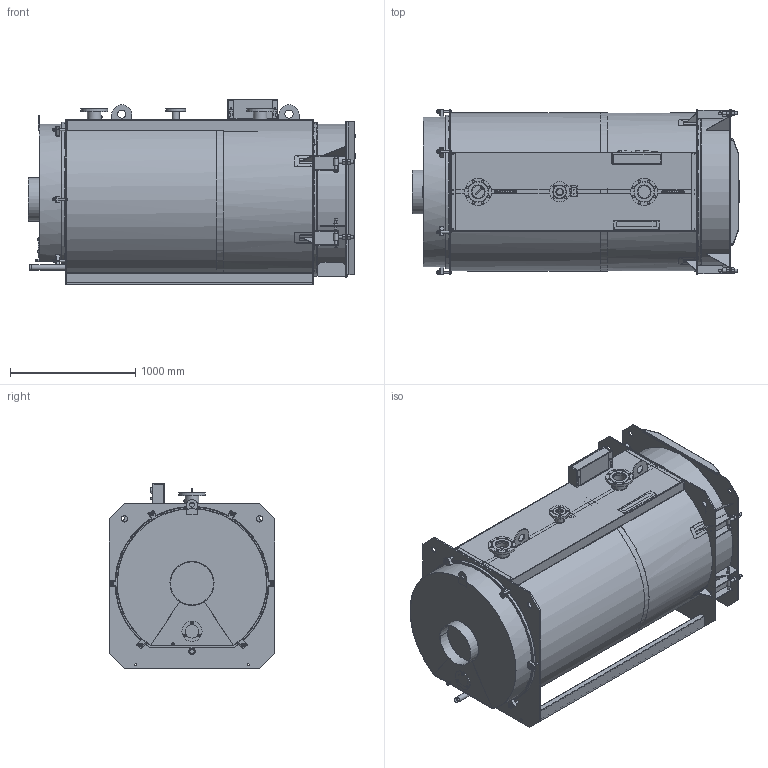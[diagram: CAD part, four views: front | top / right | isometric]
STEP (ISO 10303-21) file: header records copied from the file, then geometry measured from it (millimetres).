
FILE_DESCRIPTION(('STEP AP242'), '1');
FILE_NAME('Òèòàí Ïðîì 800 êÂò', '2026-01-12T12:20:13', (''), (''), 'ASCON STEP Converter 1.6', 'ASCON Math Kernel', '');
FILE_SCHEMA(('AP242_MANAGED_MODEL_BASED_3D_ENGINEERING_MIM_LF { 1 0 10303 442 1 1 4 }'));
Length unit declared in the file: millimetre
Products named in the file (1): КЕВМ.3136.00.00.000-10
Bounding box: 2617.01 x 1321 x 1478.16 mm (x, y, z)
Volume: 66032141.6 mm3; surface area: 37051828.2 mm2
Topology: 46 solids, 46 shells, 4109 faces, 10436 edges, 6686 vertices
Faces by surface type: plane 2607, cylinder 1239, cone 155, bspline 78, torus 15, extrusion 8, sphere 7
Full cylindrical faces by diameter (mm): 1.9 x1, 2 x18, 2.5 x1, 3 x8, 3.5 x5, 3.6 x8, 4 x8, 4.1 x10, 4.2 x1, 4.5 x8, 4.8 x1, 5 x28, 6 x5, 7 x2, 7.6 x1, 8 x3, 9 x2, 9.25 x4, 9.728 x1, 10 x5, 10.5 x1, 11 x1, 12 x11, 13 x6, 14 x4, 14.5 x1, 15 x2, 15.7 x1, 16 x22, 17 x10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
Entity records: 190446 total; most frequent: CARTESIAN_POINT 58845, DIRECTION 19928, ORIENTED_EDGE 19834, EDGE_CURVE 9917, AXIS2_PLACEMENT_3D 6855, VERTEX_POINT 6678, VECTOR 6218, LINE 6210
